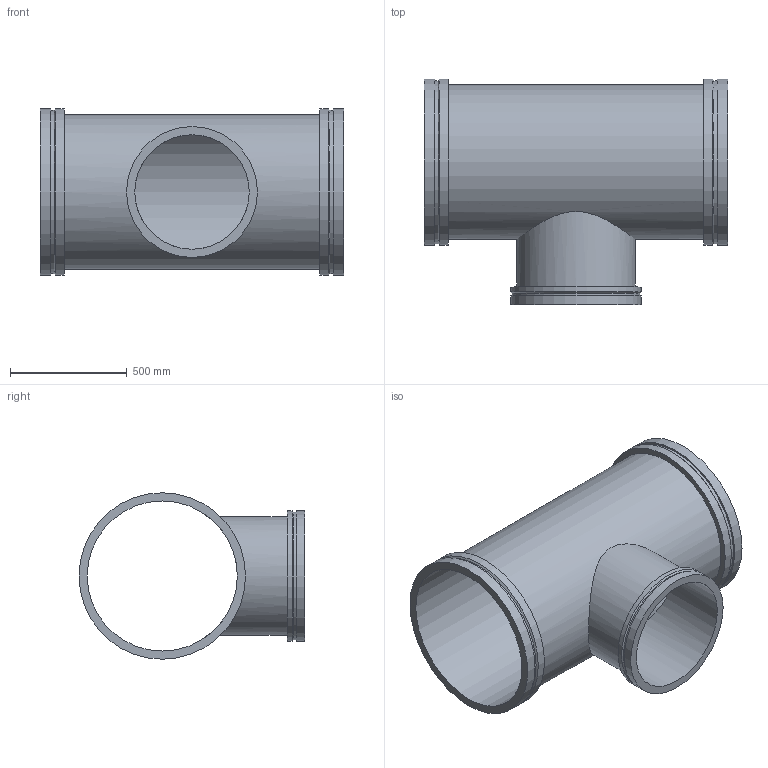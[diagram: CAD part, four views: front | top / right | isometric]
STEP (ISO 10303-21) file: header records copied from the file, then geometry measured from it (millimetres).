
FILE_DESCRIPTION(/* description */ ('VIC REDUCING TEE No W025 VR','CAx-IF Rec.Pracs.---Representation and Presentation of Product Manufacturing Information (PMI)---4.0---2014-10-13'),/* implementation_level */ '2;1');
FILE_NAME(/* name */ 'C:\Users\kkamble\AppData\Roaming\Autodesk\ApplicationPlugins\Back Up\Victaulic_Vic-Ring_Tee Reducing_No W25 VR (AGR)\Victaulic_Vic-Ring_Tee Reducing_No W25 VR (AGR)_26.0x20.0 (650x500).stp',/* time_stamp */ '2020-09-10T11:53:34+05:00',/* author */ ('mchristi'),/* organization */ ('Victaulic'),/* preprocessor_version */ 'ST-DEVELOPER v17.2',/* originating_system */ 'Autodesk Inventor 2019',/* authorisation */ '');
FILE_SCHEMA (('AP242_MANAGED_MODEL_BASED_3D_ENGINEERING_MIM_LF { 1 0 10303 442 1 1 4 }'));
Length unit declared in the file: inch
Products named in the file (1): W25 VR-26.0x20.0
Bounding box: 1295.4 x 965.2 x 711.2 mm (x, y, z)
Volume: 41938267.1 mm3; surface area: 6394571 mm2
Topology: 1 solids, 1 shells, 25 faces, 68 edges, 52 vertices
Faces by surface type: cylinder 13, plane 9, cone 3
Full cylindrical faces by diameter (mm): 488.95 x1, 508 x1, 546.1 x1, 558.8 x2, 641.35 x1, 660.4 x1, 696.722 x2, 711.2 x4
Entity records: 1219 total; most frequent: CARTESIAN_POINT 375, DIRECTION 190, ORIENTED_EDGE 136, AXIS2_PLACEMENT_3D 87, EDGE_CURVE 68, VERTEX_POINT 52, CIRCLE 48, EDGE_LOOP 36
